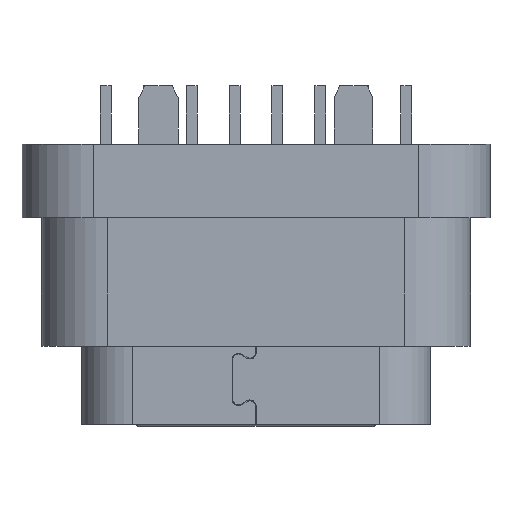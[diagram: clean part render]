
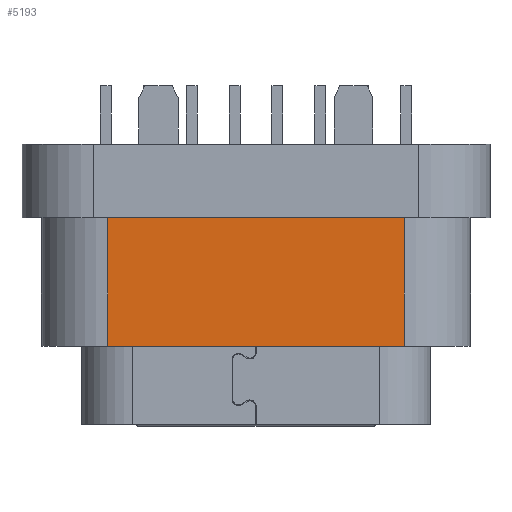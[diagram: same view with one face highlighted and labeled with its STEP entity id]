
A CAD part, front view. The second image highlights one B-rep face of the part: STEP entity #5193.
In plain terms, the highlighted planar face has unit normal (0, -1, 0).
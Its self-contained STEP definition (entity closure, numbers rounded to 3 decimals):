
#1637 = VECTOR ( 'NONE', #19629, 1000. ) ;
#1697 = CARTESIAN_POINT ( 'NONE',  ( 33.8, -2.61, 5.45 ) ) ;
#2719 = ORIENTED_EDGE ( 'NONE', *, *, #7603, .T. ) ;
#3168 = LINE ( 'NONE', #16037, #17315 ) ;
#3224 = LINE ( 'NONE', #22675, #22968 ) ;
#4210 = EDGE_CURVE ( 'NONE', #10943, #17010, #3224, .T. ) ;
#5193 = ADVANCED_FACE ( 'NONE', ( #20314 ), #21851, .F. ) ;
#6048 = CARTESIAN_POINT ( 'NONE',  ( 26.2, -2.61, 5.45 ) ) ;
#6192 = EDGE_LOOP ( 'NONE', ( #6856, #2719, #14059, #10287 ) ) ;
#6856 = ORIENTED_EDGE ( 'NONE', *, *, #23132, .F. ) ;
#6879 = LINE ( 'NONE', #18097, #1637 ) ;
#7603 = EDGE_CURVE ( 'NONE', #20688, #10943, #17996, .T. ) ;
#8557 = CARTESIAN_POINT ( 'NONE',  ( 26.2, -2.61, 2.15 ) ) ;
#9532 = DIRECTION ( 'NONE',  ( 0., 1., 0. ) ) ;
#10287 = ORIENTED_EDGE ( 'NONE', *, *, #22318, .F. ) ;
#10311 = DIRECTION ( 'NONE',  ( 0., 0., -1. ) ) ;
#10943 = VERTEX_POINT ( 'NONE', #8557 ) ;
#11303 = DIRECTION ( 'NONE',  ( 1., 0., 0. ) ) ;
#11749 = CARTESIAN_POINT ( 'NONE',  ( 33.8, -2.61, 2.15 ) ) ;
#14059 = ORIENTED_EDGE ( 'NONE', *, *, #4210, .T. ) ;
#14309 = CARTESIAN_POINT ( 'NONE',  ( 26.2, -2.61, 5.45 ) ) ;
#16037 = CARTESIAN_POINT ( 'NONE',  ( 33.8, -2.61, 5.45 ) ) ;
#17010 = VERTEX_POINT ( 'NONE', #11749 ) ;
#17282 = DIRECTION ( 'NONE',  ( 1., 0., 0. ) ) ;
#17315 = VECTOR ( 'NONE', #10311, 1000. ) ;
#17343 = AXIS2_PLACEMENT_3D ( 'NONE', #18094, #9532, #11303 ) ;
#17996 = LINE ( 'NONE', #6048, #20652 ) ;
#18094 = CARTESIAN_POINT ( 'NONE',  ( 30., -2.61, 4.825 ) ) ;
#18097 = CARTESIAN_POINT ( 'NONE',  ( 26.2, -2.61, 5.45 ) ) ;
#18786 = VERTEX_POINT ( 'NONE', #1697 ) ;
#19629 = DIRECTION ( 'NONE',  ( 1., 0., 0. ) ) ;
#20314 = FACE_OUTER_BOUND ( 'NONE', #6192, .T. ) ;
#20442 = DIRECTION ( 'NONE',  ( 0., 0., -1. ) ) ;
#20652 = VECTOR ( 'NONE', #20442, 1000. ) ;
#20688 = VERTEX_POINT ( 'NONE', #14309 ) ;
#21851 = PLANE ( 'NONE',  #17343 ) ;
#22318 = EDGE_CURVE ( 'NONE', #18786, #17010, #3168, .T. ) ;
#22675 = CARTESIAN_POINT ( 'NONE',  ( 26.2, -2.61, 2.15 ) ) ;
#22968 = VECTOR ( 'NONE', #17282, 1000. ) ;
#23132 = EDGE_CURVE ( 'NONE', #20688, #18786, #6879, .T. ) ;
